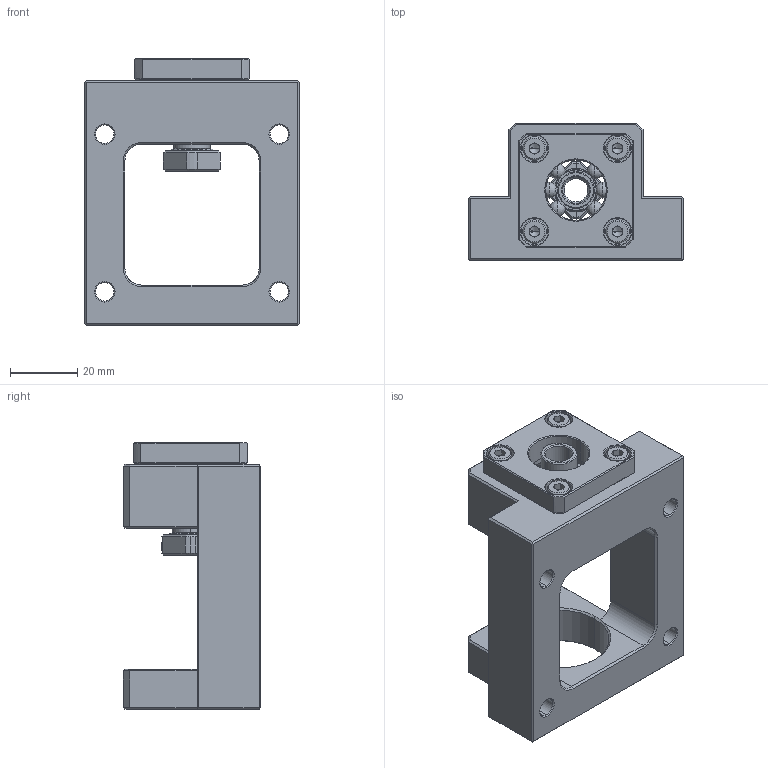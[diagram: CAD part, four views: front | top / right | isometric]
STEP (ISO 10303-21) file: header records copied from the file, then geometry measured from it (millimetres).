
FILE_DESCRIPTION (( 'STEP AP203' ), '1' );
FILE_NAME ('SBJU08B-P0.STEP', '2009-06-01T00:14:42', ( '冠犁泅' ), ( '俺惯何' ), 'SwSTEP 2.0', 'SolidWorks 2007', '' );
FILE_SCHEMA (( 'CONFIG_CONTROL_DESIGN' ));
Length unit declared in the file: millimetre
Products named in the file (11): Socket Head Cap Screw_M4x12L_B18.3.1M - 4 x 0.7 x 8 Hex SHCS -- 8NHX; P0_COVER_ル遽; K08_EK_BK_FK08(COLLAR)-1_晦獄 撲薑; SET SCREW M3 x 4L_B18.3.6M - M3 x 0.5 x 3 Hex Socket Flat Pt. SS --N; SBJU08B-P0; SBJU08B-P0 BODY_ル遽; EN8_ル遽; K08_EK_BK_FK08(COLLAR)-2_晦獄 撲薑; RN08_ル遽; RN08_NUT_晦獄 撲薑; SET PIECE_白2.3x1_晦獄 撲薑
Assembly tree (14 placements, depth 3):
  SBJU08B-P0
    RN08_ル遽
      RN08_NUT_晦獄 撲薑
      SET PIECE_白2.3x1_晦獄 撲薑
      SET SCREW M3 x 4L_B18.3.6M - M3 x 0.5 x 3 Hex Socket Flat Pt. SS --N
    K08_EK_BK_FK08(COLLAR)-2_晦獄 撲薑
    Socket Head Cap Screw_M4x12L_B18.3.1M - 4 x 0.7 x 8 Hex SHCS -- 8NHX  x4
    P0_COVER_ル遽
    SBJU08B-P0 BODY_ル遽
    EN8_ル遽  x2
    K08_EK_BK_FK08(COLLAR)-1_晦獄 撲薑
Bounding box: 64 x 41 x 79.5 mm (x, y, z)
Volume: 72409.1 mm3; surface area: 32689.2 mm2
Topology: 11 solids, 31 shells, 541 faces, 1261 edges, 711 vertices
Faces by surface type: plane 185, cone 155, cylinder 133, bspline 60, torus 8
Entity records: 13389 total; most frequent: CARTESIAN_POINT 2820, DIRECTION 2073, ORIENTED_EDGE 1812, EDGE_CURVE 913, AXIS2_PLACEMENT_3D 803, VERTEX_POINT 552, EDGE_LOOP 475, VECTOR 467
